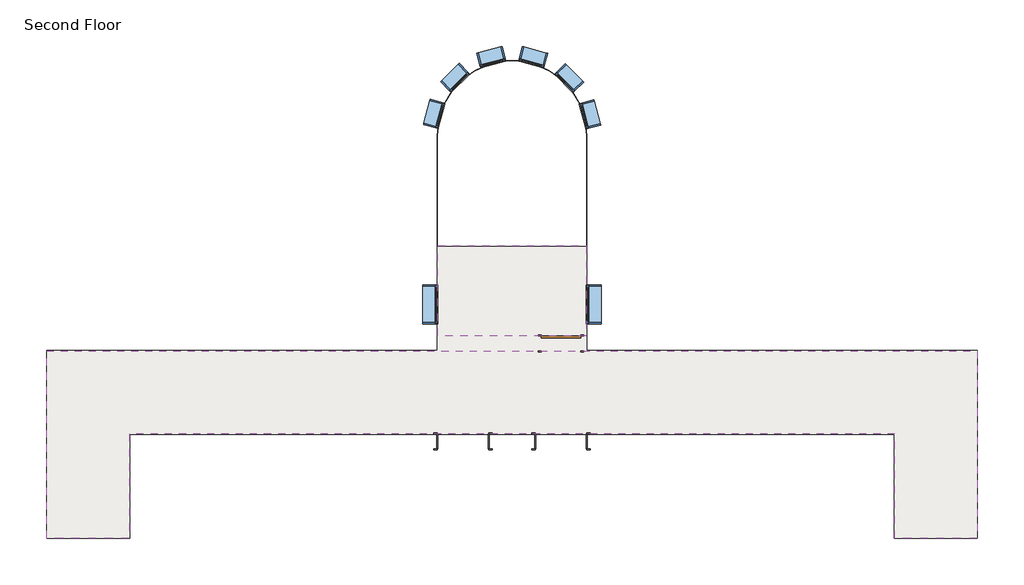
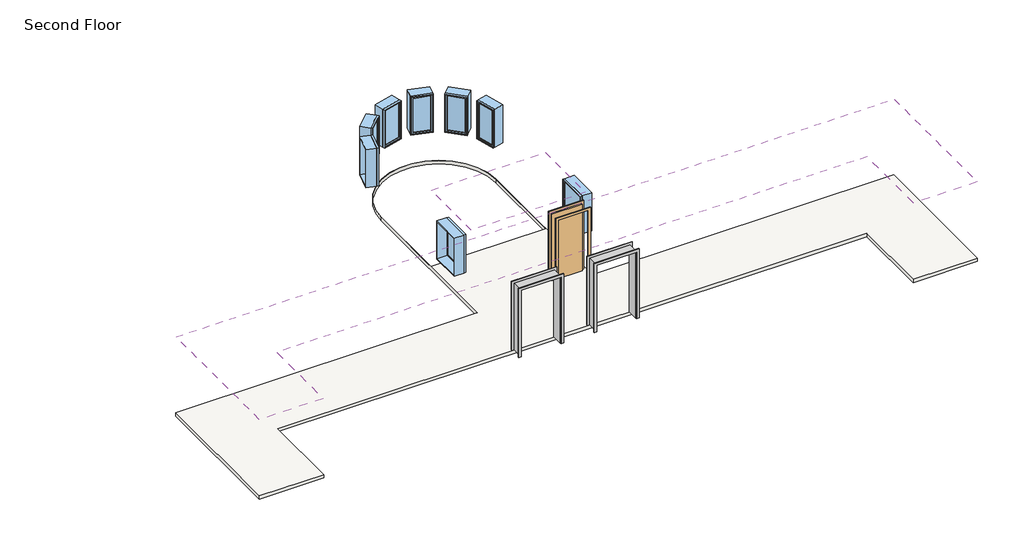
# One storey: 8 windows, 2 coverings, 2 proxies, 1 door, 1 slab.
"""IFC4 building model written with IfcOpenShell, lengths in millimetres."""

import ifcopenshell
import ifcopenshell.guid

model = None  # the IFC model being written
_history = None  # IfcOwnerHistory: only IFC2X3 demands one
_inside = {}  # id of a spatial element -> (the spatial element, [elements in it])
_under = {}  # id of a project, library or spatial element -> (it, [spatial elements below it])
_declared = {}  # id of a project -> (the project, [libraries it declares])
_typed = {}  # id of a type object -> (the type object, [elements of that type])
_made_of = {}  # id of a material, layer set ... -> (it, [elements and type objects made of it])


def new_model(schema):
    """Start an empty IFC model of exactly this schema.

    Asked for "IFC4X3", IfcOpenShell would pick the latest addendum, in which some entities
    have other attributes; the version numbers below select the first issue.
    IFC2X3 requires an IfcOwnerHistory on every rooted entity: one is made here for all.
    """
    global model, _history
    if schema == "IFC4X3":
        model = ifcopenshell.file(schema_version=(4, 3, 0, 0))
    else:
        model = ifcopenshell.file(schema=schema)
    _inside.clear()
    _under.clear()
    _declared.clear()
    _typed.clear()
    _made_of.clear()
    _history = None
    if model.schema == "IFC2X3":
        org = make("IfcOrganization", Name="unknown")
        user = make(
            "IfcPersonAndOrganization",
            ThePerson=make("IfcPerson", FamilyName="unknown"),
            TheOrganization=org,
        )
        app = make(
            "IfcApplication",
            ApplicationDeveloper=org,
            Version="unknown",
            ApplicationFullName="unknown",
            ApplicationIdentifier="unknown",
        )
        _history = make(
            "IfcOwnerHistory",
            OwningUser=user,
            OwningApplication=app,
            ChangeAction="ADDED",
            CreationDate=0,
        )
    return model


def make(cls, **values):
    """One entity of the class cls with the attributes given. An attribute that is None is left unset."""
    return model.create_entity(
        cls, **{name: value for name, value in values.items() if value is not None}
    )


def rooted(cls, **values):
    """An entity with a GlobalId (a new one), such as an element, a storey or a relation."""
    return make(cls, GlobalId=ifcopenshell.guid.new(), OwnerHistory=_history, **values)


def si_unit(unit_type, name, prefix=None):
    """IfcSIUnit, for example si_unit("LENGTHUNIT", "METRE", prefix="MILLI")."""
    return make("IfcSIUnit", UnitType=unit_type, Prefix=prefix, Name=name)


def assignment(units):
    """IfcUnitAssignment: the units of a project."""
    return None if units is None else make("IfcUnitAssignment", Units=units)


def point(xyz):
    """IfcCartesianPoint."""
    return None if xyz is None else make("IfcCartesianPoint", Coordinates=xyz)


def direction(xyz):
    """IfcDirection."""
    return None if xyz is None else make("IfcDirection", DirectionRatios=xyz)


def frame(location, z_axis=None, x_axis=None):
    """IfcAxis2Placement3D, a coordinate frame: its origin and axes. An axis left out is left unset."""
    return make(
        "IfcAxis2Placement3D",
        Location=point(location),
        Axis=direction(z_axis),
        RefDirection=direction(x_axis),
    )


def frame_2d(location, x_axis=None):
    """IfcAxis2Placement2D, a coordinate frame in the plane: its origin and x axis."""
    return make(
        "IfcAxis2Placement2D", Location=point(location), RefDirection=direction(x_axis)
    )


def origin():
    """The frame at (0, 0, 0) with its axes left unset."""
    return frame((0.0, 0.0, 0.0))


def origin_with_axes():
    """The frame at (0, 0, 0) with the z axis (0, 0, 1) and the x axis (1, 0, 0) written out."""
    return frame((0.0, 0.0, 0.0), z_axis=(0.0, 0.0, 1.0), x_axis=(1.0, 0.0, 0.0))


def place(relative_to, where):
    """IfcLocalPlacement: puts the frame where relative to a parent placement (None: the world)."""
    return make(
        "IfcLocalPlacement", PlacementRelTo=relative_to, RelativePlacement=where
    )


def context(
    kind, dimensions, precision=None, world=None, true_north=None, identifier=None
):
    """IfcGeometricRepresentationContext, for example the 3D "Model" context."""
    return make(
        "IfcGeometricRepresentationContext",
        ContextIdentifier=identifier,
        ContextType=kind,
        CoordinateSpaceDimension=dimensions,
        Precision=precision,
        WorldCoordinateSystem=world,
        TrueNorth=true_north,
    )


def project(units=None, contexts=None):
    """IfcProject with its units and contexts."""
    return rooted(
        "IfcProject",
        Name="project",
        RepresentationContexts=contexts,
        UnitsInContext=assignment(units),
    )


def spatial(cls, under=None, at=None, **own):
    """A site, building, storey or space (cls), placed at a placement, below another one or the project."""
    s = rooted(cls, ObjectPlacement=at, **own)
    if under is not None:
        _under.setdefault(under.id(), (under, []))[1].append(s)
    return s


def polyline(points):
    """IfcPolyline through the points."""
    return make("IfcPolyline", Points=[point(p) for p in points])


def circle_curve(where, radius):
    """IfcCircle in the frame where."""
    return make("IfcCircle", Position=where, Radius=radius)


def trimmed(basis, trim1, trim2, sense, master):
    """IfcTrimmedCurve: the piece of a basis curve between two trims."""
    return make(
        "IfcTrimmedCurve",
        BasisCurve=basis,
        Trim1=trim1,
        Trim2=trim2,
        SenseAgreement=sense,
        MasterRepresentation=master,
    )


def segment(curve, same_sense, transition):
    """IfcCompositeCurveSegment."""
    return make(
        "IfcCompositeCurveSegment",
        Transition=transition,
        SameSense=same_sense,
        ParentCurve=curve,
    )


def composite_curve(segments, self_intersect=None):
    """IfcCompositeCurve: segments joined end to end."""
    return make("IfcCompositeCurve", Segments=segments, SelfIntersect=self_intersect)


def outline(outer, holes=None, kind="AREA"):
    """IfcArbitraryClosedProfileDef: a profile drawn as a closed curve; with holes, ...WithVoids."""
    if holes is None:
        return make("IfcArbitraryClosedProfileDef", ProfileType=kind, OuterCurve=outer)
    return make(
        "IfcArbitraryProfileDefWithVoids",
        ProfileType=kind,
        OuterCurve=outer,
        InnerCurves=holes,
    )


def extrude(swept, where, along, depth):
    """IfcExtrudedAreaSolid: the profile swept, set in the frame where, extruded along a direction by depth."""
    return make(
        "IfcExtrudedAreaSolid",
        SweptArea=swept,
        Position=where,
        ExtrudedDirection=direction(along),
        Depth=depth,
    )


def faces_of(points, faces, orient=None, outer=None):
    """IfcFace entities. A face is a list of loops; a loop is a list of indices into points, from 0.

    orient and outer hold one flag for each loop. By default every Orientation is true, the
    first loop of a face is its IfcFaceOuterBound and the others are IfcFaceBound.
    """
    made = []
    for i, loops in enumerate(faces):
        bounds = []
        for j, loop in enumerate(loops):
            is_outer = j == 0 if outer is None else outer[i][j]
            bounds.append(
                make(
                    "IfcFaceOuterBound" if is_outer else "IfcFaceBound",
                    Bound=make("IfcPolyLoop", Polygon=[points[k] for k in loop]),
                    Orientation=True if orient is None else orient[i][j],
                )
            )
        made.append(make("IfcFace", Bounds=bounds))
    return made


def faceted_brep(points, faces, orient=None, outer=None, voids=None):
    """IfcFacetedBrep: a solid bounded by flat faces; with voids (closed shells), ...WithVoids."""
    shared = [point(p) for p in points]
    hull = make("IfcClosedShell", CfsFaces=faces_of(shared, faces, orient, outer))
    if voids is None:
        return make("IfcFacetedBrep", Outer=hull)
    return make(
        "IfcFacetedBrepWithVoids",
        Outer=hull,
        Voids=[
            make(cls, CfsFaces=faces_of(shared, fs, o, b)) for cls, fs, o, b in voids
        ],
    )


def shape(context_of_items, identifier, shape_type, items):
    """IfcShapeRepresentation: the items that make up one representation, for example the "Body"."""
    return make(
        "IfcShapeRepresentation",
        ContextOfItems=context_of_items,
        RepresentationIdentifier=identifier,
        RepresentationType=shape_type,
        Items=items,
    )


def source(mapping_origin, context_of_items, identifier, shape_type, items):
    """IfcRepresentationMap: a shape defined once, which mapped items show again and again."""
    return make(
        "IfcRepresentationMap",
        MappingOrigin=mapping_origin,
        MappedRepresentation=shape(context_of_items, identifier, shape_type, items),
    )


def transform(
    local_origin,
    x_axis=None,
    y_axis=None,
    z_axis=None,
    scale=None,
    scale2=None,
    scale3=None,
    uniform=True,
):
    """IfcCartesianTransformationOperator3D, or its non-uniform kind. x_axis, y_axis, z_axis: its Axis1, 2, 3."""
    if uniform:
        return make(
            "IfcCartesianTransformationOperator3D",
            Axis1=direction(x_axis),
            Axis2=direction(y_axis),
            LocalOrigin=point(local_origin),
            Scale=scale,
            Axis3=direction(z_axis),
        )
    return make(
        "IfcCartesianTransformationOperator3DnonUniform",
        Axis1=direction(x_axis),
        Axis2=direction(y_axis),
        LocalOrigin=point(local_origin),
        Scale=scale,
        Axis3=direction(z_axis),
        Scale2=scale2,
        Scale3=scale3,
    )


def mapped(mapping_source, mapping_target):
    """IfcMappedItem: shows the shape of a source again, moved by a transform."""
    return make(
        "IfcMappedItem", MappingSource=mapping_source, MappingTarget=mapping_target
    )


def made_of(thing, what):
    """Note that an element or type object is made of a material, layer set ...; save() writes the relation."""
    if what is not None:
        _made_of.setdefault(what.id(), (what, []))[1].append(thing)
    return thing


def element(
    cls,
    number,
    at=None,
    inside=None,
    cuts=None,
    type_object=None,
    material=None,
    context=None,
    identifier="Body",
    shape_type=None,
    held_by="IfcProductDefinitionShape",
    body=None,
    shapes=None,
    **own,
):
    """One element of the class cls, such as IfcWall. Its Tag is "e" and its number.

    at: its placement. inside: the storey or other place that contains it. cuts: it is an
    opening in that element (IfcRelVoidsElement). A single representation is given by context,
    identifier, shape_type and body (its items); several are given by shapes. held_by: the class
    of the entity that holds the representations. save() writes the other relations.
    """
    e = rooted(cls, Tag="e%d" % number, ObjectPlacement=at, **own)
    if body is not None:
        shapes = [shape(context, identifier, shape_type, body)]
    if shapes is not None:
        e.Representation = make(held_by, Representations=shapes)
    if inside is not None:
        _inside.setdefault(inside.id(), (inside, []))[1].append(e)
    if cuts is not None:
        rooted(
            "IfcRelVoidsElement", RelatingBuildingElement=cuts, RelatedOpeningElement=e
        )
    if type_object is not None:
        _typed.setdefault(type_object.id(), (type_object, []))[1].append(e)
    return made_of(e, material)


def aggregate(whole, parts):
    """IfcRelAggregates: a whole, such as a stair, and the parts it consists of."""
    return rooted("IfcRelAggregates", RelatingObject=whole, RelatedObjects=parts)


def save(model, path):
    """Write the relations noted so far, then the file.

    IfcRelAggregates (storeys below a building ...), IfcRelContainedInSpatialStructure (elements
    in a storey), IfcRelDefinesByType, IfcRelAssociatesMaterial and IfcRelDeclares: one each for
    every whole, place, type object, material and project.
    """
    for whole, parts in _under.values():
        aggregate(whole, parts)
    for where, things in _inside.values():
        rooted(
            "IfcRelContainedInSpatialStructure",
            RelatedElements=things,
            RelatingStructure=where,
        )
    for kind, things in _typed.values():
        rooted("IfcRelDefinesByType", RelatedObjects=things, RelatingType=kind)
    for what, things in _made_of.values():
        rooted("IfcRelAssociatesMaterial", RelatedObjects=things, RelatingMaterial=what)
    for by, libraries in _declared.values():
        rooted("IfcRelDeclares", RelatingContext=by, RelatedDefinitions=libraries)
    model.write(path)


def proxy_c3589814(model_context):
    return source(origin(), model_context, "Body", "SolidModel", [
        extrude(outline(polyline([(0.0, -611.4386567), (2127.25, -611.4386567), (2127.25, 595.0613433), (0.0, 595.0613433), (0.0, 671.2613433), (2203.45, 671.2613433), (2203.45, -687.6386567), (0.0, -687.6386567), (0.0, -611.4386567)])), frame((0.0, -195.2625, 0.0), z_axis=(0.0, 1.0, 0.0), x_axis=(0.0, 0.0, 1.0)), (0.0, 0.0, 1.0), 19.05),
        extrude(outline(polyline([(0.0, 671.2613433), (2209.8, 671.2613433), (2209.8, -687.6386567), (0.0, -687.6386567), (0.0, -611.4386567), (2127.25, -611.4386567), (2127.25, 595.0613433), (0.0, 595.0613433), (0.0, 671.2613433)])), frame((0.0, 176.2125, 0.0), z_axis=(0.0, 1.0, 0.0), x_axis=(0.0, 0.0, 1.0)), (0.0, 0.0, 1.0), 19.05),
        faceted_brep([(582.3613433, 176.2125, 0.0), (601.4113433, 176.2125, 0.0), (601.4113433, -176.2125, 0.0), (582.3613433, -176.2125, 0.0), (582.3613433, 176.2125, 2114.55), (601.4113433, 176.2125, 2133.6), (601.4113433, -176.2125, 2133.6), (582.3613433, -176.2125, 2114.55), (-598.7386567, 176.2125, 2114.55), (-617.7886567, 176.2125, 2133.6), (-617.7886567, -176.2125, 2133.6), (-598.7386567, -176.2125, 2114.55), (-598.7386567, 176.2125, 0.0), (-598.7386567, -176.2125, 0.0), (-617.7886567, -176.2125, 0.0), (-617.7886567, 176.2125, 0.0)], [[[0, 1, 2, 3]], [[1, 0, 4, 5]], [[2, 1, 5, 6]], [[3, 2, 6, 7]], [[0, 3, 7, 4]], [[5, 4, 8, 9]], [[6, 5, 9, 10]], [[7, 6, 10, 11]], [[4, 7, 11, 8]], [[12, 13, 14, 15]], [[9, 8, 12, 15]], [[10, 9, 15, 14]], [[11, 10, 14, 13]], [[8, 11, 13, 12]]]),
    ])


def door_632be17d(model_context):
    return source(origin(), model_context, "Body", "SweptSolid", [
        extrude(outline(polyline([(2209.8, -533.4), (0.0, -533.4), (0.0, -457.2), (2133.6, -457.2), (2133.6, 457.2), (0.0, 457.2), (0.0, 533.4), (2209.8, 533.4), (2209.8, -533.4)])), frame((0.0, 176.2125, 0.0), z_axis=(0.0, 1.0, 0.0), x_axis=(0.0, 0.0, 1.0)), (0.0, 0.0, 1.0), 25.4),
        extrude(outline(polyline([(2209.8, 533.4), (2209.8, -533.4), (0.0, -533.4), (0.0, -457.2), (2133.6, -457.2), (2133.6, 457.2), (0.0, 457.2), (0.0, 533.4), (2209.8, 533.4)])), frame((0.0, -201.6125, 0.0), z_axis=(0.0, 1.0, 0.0), x_axis=(0.0, 0.0, 1.0)), (0.0, 0.0, 1.0), 25.4),
        extrude(outline(polyline([(457.2, 125.4125), (-457.2, 125.4125), (-457.2, 176.2125), (457.2, 176.2125), (457.2, 125.4125)])), origin_with_axes(), (0.0, 0.0, 1.0), 2133.6),
    ])


def window_60baf983(model_context):
    return source(origin(), model_context, "Body", "SweptSolid", [
        extrude(outline(polyline([(203.2, 128.5875), (-279.4, 128.5875), (-279.4, 141.2875), (203.2, 141.2875), (203.2, 128.5875)])), frame((0.0, 0.0, 977.9), z_axis=(0.0, 0.0, 1.0), x_axis=(1.0, 0.0, 0.0)), (0.0, 0.0, 1.0), 1092.2),
        extrude(outline(polyline([(2114.55, -323.85), (933.45, -323.85), (933.45, 247.65), (2114.55, 247.65), (2114.55, -323.85)]), holes=[polyline([(2070.1, -279.4), (2070.1, 203.2), (977.9, 203.2), (977.9, -279.4), (2070.1, -279.4)])]), frame((0.0, 112.7125, 0.0), z_axis=(0.0, 1.0, 0.0), x_axis=(0.0, 0.0, 1.0)), (0.0, 0.0, 1.0), 44.45),
        extrude(outline(polyline([(2133.6, -342.9), (914.4, -342.9), (914.4, 266.7), (2133.6, 266.7), (2133.6, -342.9)]), holes=[polyline([(2101.85, -311.15), (2101.85, 234.95), (946.15, 234.95), (946.15, -311.15), (2101.85, -311.15)])]), frame((0.0, -176.2125, 0.0), z_axis=(0.0, 1.0, 0.0), x_axis=(0.0, 0.0, 1.0)), (0.0, 0.0, 1.0), 288.925),
        extrude(outline(polyline([(2133.6, 266.7), (2133.6, -342.9), (914.4, -342.9), (914.4, 266.7), (2133.6, 266.7)]), holes=[polyline([(2114.55, 247.65), (933.45, 247.65), (933.45, -323.85), (2114.55, -323.85), (2114.55, 247.65)])]), frame((0.0, 112.7125, 0.0), z_axis=(0.0, 1.0, 0.0), x_axis=(0.0, 0.0, 1.0)), (0.0, 0.0, 1.0), 63.5),
    ])


def window_15c49d37(model_context):
    return source(origin(), model_context, "Body", "SweptSolid", [
        extrude(outline(polyline([(355.6, 128.5875), (-431.8, 128.5875), (-431.8, 141.2875), (355.6, 141.2875), (355.6, 128.5875)])), frame((0.0, 0.0, 977.9), z_axis=(0.0, 0.0, 1.0), x_axis=(1.0, 0.0, 0.0)), (0.0, 0.0, 1.0), 1092.2),
        extrude(outline(polyline([(2114.55, -476.25), (933.45, -476.25), (933.45, 400.05), (2114.55, 400.05), (2114.55, -476.25)]), holes=[polyline([(2070.1, -431.8), (2070.1, 355.6), (977.9, 355.6), (977.9, -431.8), (2070.1, -431.8)])]), frame((0.0, 112.7125, 0.0), z_axis=(0.0, 1.0, 0.0), x_axis=(0.0, 0.0, 1.0)), (0.0, 0.0, 1.0), 44.45),
        extrude(outline(polyline([(2133.6, -495.3), (914.4, -495.3), (914.4, 419.1), (2133.6, 419.1), (2133.6, -495.3)]), holes=[polyline([(2101.85, -463.55), (2101.85, 387.35), (946.15, 387.35), (946.15, -463.55), (2101.85, -463.55)])]), frame((0.0, -176.2125, 0.0), z_axis=(0.0, 1.0, 0.0), x_axis=(0.0, 0.0, 1.0)), (0.0, 0.0, 1.0), 288.925),
        extrude(outline(polyline([(2133.6, 419.1), (2133.6, -495.3), (914.4, -495.3), (914.4, 419.1), (2133.6, 419.1)]), holes=[polyline([(2114.55, 400.05), (933.45, 400.05), (933.45, -476.25), (2114.55, -476.25), (2114.55, 400.05)])]), frame((0.0, 112.7125, 0.0), z_axis=(0.0, 1.0, 0.0), x_axis=(0.0, 0.0, 1.0)), (0.0, 0.0, 1.0), 63.5),
    ])


model = new_model("IFC4")

# Units and contexts
model_context = context("Model", 3, world=origin())
ifc_project = project(units=[si_unit("LENGTHUNIT", "METRE", prefix="MILLI")], contexts=[model_context])

# Site, building, storey
site = spatial("IfcSite", under=ifc_project)
building = spatial("IfcBuilding", under=site)
storey = spatial("IfcBuildingStorey", under=building, Name="Second Floor", Elevation=3048.0)

# Proxies
placement = place(None, origin())
proxy_shape = proxy_c3589814(model_context)
element("IfcBuildingElementProxy", 1, Name="Opening-Cased : 48\" x 84\"", ObjectType="Opening-Cased : 48\" x 84\"", at=placement, inside=storey, context=model_context, shape_type="MappedRepresentation", body=[
    mapped(proxy_shape, transform((-7396.8036255, 2429.9758812, 3048.0), x_axis=(-1.0, 0.0, 0.0), y_axis=(0.0, -1.0, 0.0), z_axis=(0.0, 0.0, 1.0))),
])
element("IfcBuildingElementProxy", 2, Name="Opening-Cased : 48\" x 84\"", ObjectType="Opening-Cased : 48\" x 84\"", at=placement, inside=storey, context=model_context, shape_type="MappedRepresentation", body=[
    mapped(proxy_shape, transform((-5110.8036255, 2429.9758812, 3048.0), x_axis=(-1.0, 0.0, 0.0), y_axis=(0.0, -1.0, 0.0), z_axis=(0.0, 0.0, 1.0))),
])

# Coverings
element("IfcCovering", 3, ObjectType="GWB on Mtl. Stud", at=placement, inside=storey, context=model_context, shape_type="SweptSolid", body=[
    extrude(outline(polyline([(-4516.8274687, 4892.1883812), (-7974.4024687, 4892.1883812), (-7974.4024687, 7001.9758812), (-4516.8274687, 7001.9758812), (-4516.8274687, 4892.1883812)])), frame((0.0, 0.0, 5486.4), z_axis=(0.0, 0.0, 1.0), x_axis=(1.0, 0.0, 0.0)), (0.0, 0.0, 1.0), 107.95),
])
element("IfcCovering", 4, ObjectType="GWB on Mtl. Stud", at=placement, inside=storey, context=model_context, shape_type="SweptSolid", body=[
    extrude(outline(polyline([(2693.5975313, 167.7883812), (2693.5975313, 2606.1883812), (-15184.8274687, 2606.1883812), (-15184.8274687, 167.7883812), (-17118.4024687, 167.7883812), (-17118.4024687, 4539.7633812), (4627.1725313, 4539.7633812), (4627.1725313, 167.7883812), (2693.5975313, 167.7883812)])), frame((0.0, 0.0, 5486.4), z_axis=(0.0, 0.0, 1.0), x_axis=(1.0, 0.0, 0.0)), (0.0, 0.0, 1.0), 107.95),
])

# Door
door_shape = door_632be17d(model_context)
element("IfcDoor", 5, ObjectType="Single-Flush : 36\" x 84\"", at=placement, inside=storey, context=model_context, shape_type="MappedRepresentation", body=[
    mapped(door_shape, transform((-5102.6149687, 4715.9758812, 3048.0), x_axis=(1.0, 0.0, 0.0), y_axis=(0.0, 1.0, 0.0), z_axis=(0.0, 0.0, 1.0))),
])

# Slab
element("IfcSlab", 6, ObjectType="LW Concrete on Metal Deck", at=placement, inside=storey, context=model_context, shape_type="SweptSolid", body=[
    extrude(outline(composite_curve([segment(polyline([(-4504.1274687, 9592.7758812), (-4504.1274687, 4552.4633812), (4627.1725313, 4552.4633812), (4627.1725313, 167.7883812), (2680.8975313, 167.7883812), (2680.8975313, 2593.4883812), (-15172.1274687, 2593.4883812), (-15172.1274687, 167.7883812), (-17118.4024687, 167.7883812), (-17118.4024687, 4552.4633812), (-7987.1024687, 4552.4633812), (-7987.1024687, 9592.7758812)]), True, "CONTINUOUS"), segment(trimmed(circle_curve(frame_2d((-6245.6149687, 9592.7758812)), 1741.4875), [point((-7987.1024687, 9592.7758812))], [point((-4504.1274687, 9592.7758812))], False, "CARTESIAN"), True, "CONTINUOUS")], self_intersect=False), holes=[composite_curve([segment(polyline([(-7974.4024687, 7001.9758812), (-4516.8274687, 7001.9758812), (-4516.8274687, 9592.7758812)]), True, "CONTINUOUS"), segment(trimmed(circle_curve(frame_2d((-6245.6149687, 9592.7758812)), 1728.7875), [point((-4516.8274687, 9592.7758812))], [point((-7974.4024687, 9592.7758812))], True, "CARTESIAN"), True, "CONTINUOUS"), segment(polyline([(-7974.4024687, 9592.7758812), (-7974.4024687, 7001.9758812)]), True, "CONTINUOUS")], self_intersect=False)]), frame((0.0, 0.0, 2943.225), z_axis=(0.0, 0.0, 1.0), x_axis=(1.0, 0.0, 0.0)), (0.0, 0.0, 1.0), 104.775),
])

# Windows
window_shape = window_60baf983(model_context)
element("IfcWindow", 7, ObjectType="Fixed : 24\" x 48\"", at=placement, inside=storey, context=model_context, shape_type="MappedRepresentation", body=[
    mapped(window_shape, transform((-8072.5076754, 10048.7859441, 3048.0), x_axis=(-0.26176149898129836, -0.9651325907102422, 0.0), y_axis=(0.9651325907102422, -0.26176149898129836, 0.0), z_axis=(0.0, 0.0, 1.0))),
])
element("IfcWindow", 8, ObjectType="Fixed : 24\" x 48\"", at=placement, inside=storey, context=model_context, shape_type="MappedRepresentation", body=[
    mapped(window_shape, transform((-7599.7454312, 10901.1385333, 3048.0), x_axis=(-0.7092584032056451, -0.7049485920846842, 0.0), y_axis=(0.7049485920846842, -0.7092584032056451, 0.0), z_axis=(0.0, 0.0, 1.0))),
])
element("IfcWindow", 9, ObjectType="Fixed : 24\" x 48\"", at=placement, inside=storey, context=model_context, shape_type="MappedRepresentation", body=[
    mapped(window_shape, transform((-6764.1450232, 11402.9164066, 3048.0), x_axis=(-0.9667100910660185, -0.25587418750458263, 0.0), y_axis=(0.25587418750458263, -0.9667100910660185, 0.0), z_axis=(0.0, 0.0, 1.0))),
])
element("IfcWindow", 10, ObjectType="Fixed : 24\" x 48\"", at=placement, inside=storey, context=model_context, shape_type="MappedRepresentation", body=[
    mapped(window_shape, transform((-5789.6049059, 11419.6685878, 3048.0), x_axis=(-0.9651325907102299, 0.2617614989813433, 0.0), y_axis=(-0.2617614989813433, -0.9651325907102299, 0.0), z_axis=(0.0, 0.0, 1.0))),
])
element("IfcWindow", 11, ObjectType="Fixed : 24\" x 48\"", at=placement, inside=storey, context=model_context, shape_type="MappedRepresentation", body=[
    mapped(window_shape, transform((-4937.2523166, 10946.9063437, 3048.0), x_axis=(-0.7049485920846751, 0.7092584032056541, 0.0), y_axis=(-0.7092584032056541, -0.7049485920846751, 0.0), z_axis=(0.0, 0.0, 1.0))),
])
element("IfcWindow", 12, ObjectType="Fixed : 24\" x 48\"", at=placement, inside=storey, context=model_context, shape_type="MappedRepresentation", body=[
    mapped(window_shape, transform((-4435.4744434, 10111.3059357, 3048.0), x_axis=(-0.25587418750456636, 0.9667100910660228, 0.0), y_axis=(-0.9667100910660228, -0.25587418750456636, 0.0), z_axis=(0.0, 0.0, 1.0))),
])
window_2_shape = window_15c49d37(model_context)
element("IfcWindow", 13, ObjectType="Fixed : 36\" x 48\"", at=placement, inside=storey, context=model_context, shape_type="MappedRepresentation", body=[
    mapped(window_2_shape, transform((-8150.6149687, 5592.2758812, 3048.0), x_axis=(0.0, -1.0, 0.0), y_axis=(1.0, 0.0, 0.0), z_axis=(0.0, 0.0, 1.0))),
])
element("IfcWindow", 14, ObjectType="Fixed : 36\" x 48\"", at=placement, inside=storey, context=model_context, shape_type="MappedRepresentation", body=[
    mapped(window_2_shape, transform((-4340.6149687, 5668.4758812, 3048.0), x_axis=(0.0, 1.0, 0.0), y_axis=(-1.0, 0.0, 0.0), z_axis=(0.0, 0.0, 1.0))),
])

save(model, "model.ifc")
